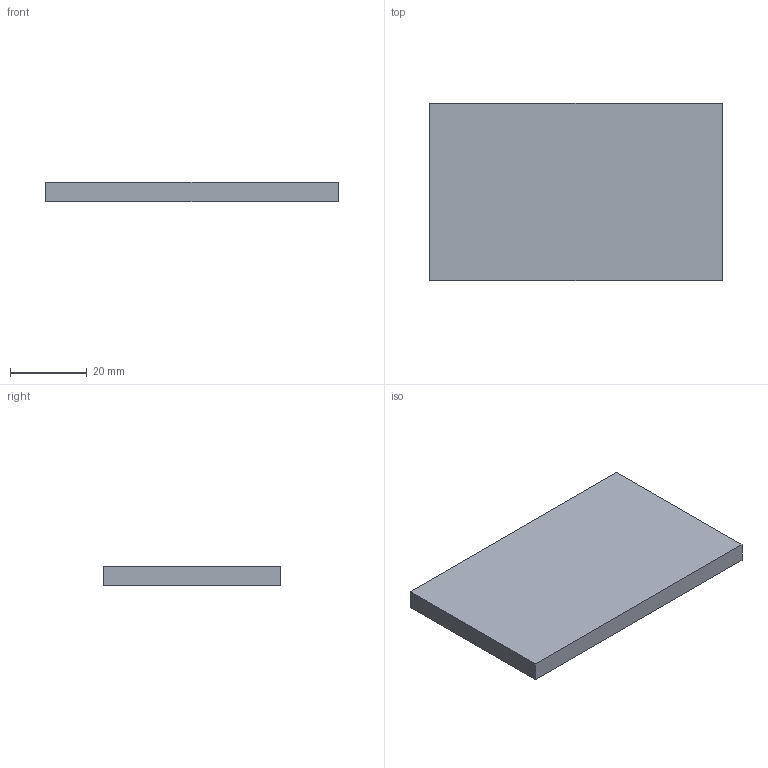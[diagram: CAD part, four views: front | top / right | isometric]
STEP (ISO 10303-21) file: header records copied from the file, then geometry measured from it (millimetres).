
FILE_DESCRIPTION(('Reference STEP solid generated for enclosure CAD implementation'),'2;1');
FILE_NAME('airgap8mb_enclosure_lid_reference.step','2026-07-29T17:00:00Z',('Daxini'),('Daxini'),'airgap8mb-cadgen','airgap8mb-cadgen','');
FILE_SCHEMA(('AUTOMOTIVE_DESIGN_CC2'));
Length unit declared in the file: millimetre
Products named in the file (1): airgap8mb_enclosure_lid_reference
Bounding box: 76 x 46 x 5 mm (x, y, z)
Surface area: 8212 mm2 (no closed solid volume)
Topology: 0 solids, 6 shells, 6 faces, 24 edges, 8 vertices
Faces by surface type: plane 6
Entity records: 221 total; most frequent: CARTESIAN_POINT 38, DIRECTION 36, VECTOR 24, LINE 24, EDGE_CURVE 24, ORIENTED_EDGE 24, VERTEX_POINT 8, EDGE_LOOP 6
